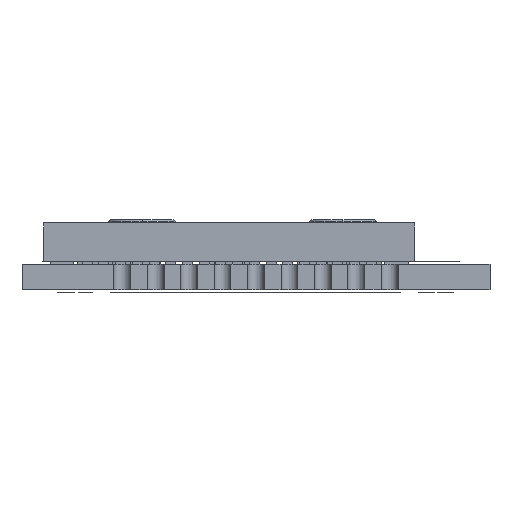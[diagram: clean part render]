
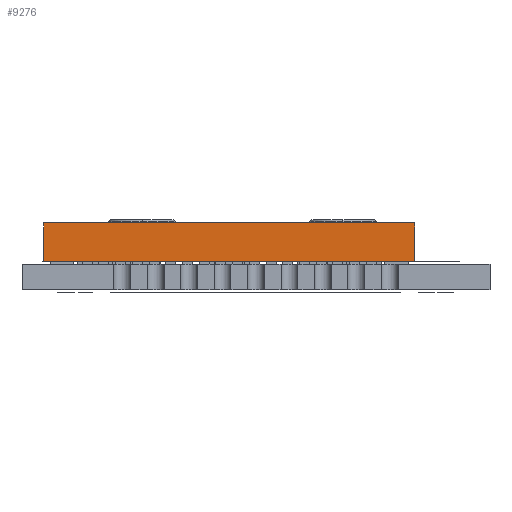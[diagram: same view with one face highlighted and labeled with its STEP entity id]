
A CAD part, front view. The second image highlights one B-rep face of the part: STEP entity #9276.
In plain terms, the highlighted planar face has unit normal (0, -1, 0) as drawn and (-1, 0, 0) by its records, which use the part's own axes.
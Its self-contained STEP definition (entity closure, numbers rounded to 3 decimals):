
#189 = VERTEX_POINT('',#190);
#190 = CARTESIAN_POINT('',(-6.05,5.55,1.156));
#196 = EDGE_CURVE('',#189,#197,#199,.T.);
#197 = VERTEX_POINT('',#198);
#198 = CARTESIAN_POINT('',(-6.05,-5.55,1.156));
#199 = LINE('',#200,#201);
#200 = CARTESIAN_POINT('',(-6.05,0.,1.156));
#201 = VECTOR('',#202,1.);
#202 = DIRECTION('',(0.,-1.,0.));
#4380 = VERTEX_POINT('',#4381);
#4381 = CARTESIAN_POINT('',(-6.05,-5.55,0.));
#4387 = EDGE_CURVE('',#4388,#4380,#4390,.T.);
#4388 = VERTEX_POINT('',#4389);
#4389 = CARTESIAN_POINT('',(-6.05,5.55,0.));
#4390 = LINE('',#4391,#4392);
#4391 = CARTESIAN_POINT('',(-6.05,0.,0.));
#4392 = VECTOR('',#4393,1.);
#4393 = DIRECTION('',(0.,-1.,0.));
#9264 = EDGE_CURVE('',#189,#4388,#9265,.T.);
#9265 = LINE('',#9266,#9267);
#9266 = CARTESIAN_POINT('',(-6.05,5.55,1.156));
#9267 = VECTOR('',#9268,1.);
#9268 = DIRECTION('',(0.,0.,-1.));
#9276 = ADVANCED_FACE('',(#9277),#9288,.F.);
#9277 = FACE_BOUND('',#9278,.T.);
#9278 = EDGE_LOOP('',(#9279,#9280,#9286,#9287));
#9279 = ORIENTED_EDGE('',*,*,#4387,.T.);
#9280 = ORIENTED_EDGE('',*,*,#9281,.F.);
#9281 = EDGE_CURVE('',#197,#4380,#9282,.T.);
#9282 = LINE('',#9283,#9284);
#9283 = CARTESIAN_POINT('',(-6.05,-5.55,1.156));
#9284 = VECTOR('',#9285,1.);
#9285 = DIRECTION('',(0.,0.,-1.));
#9286 = ORIENTED_EDGE('',*,*,#196,.F.);
#9287 = ORIENTED_EDGE('',*,*,#9264,.T.);
#9288 = PLANE('',#9289);
#9289 = AXIS2_PLACEMENT_3D('',#9290,#9291,#9292);
#9290 = CARTESIAN_POINT('',(-6.05,0.,1.156));
#9291 = DIRECTION('',(1.,0.,0.));
#9292 = DIRECTION('',(0.,0.,-1.));
